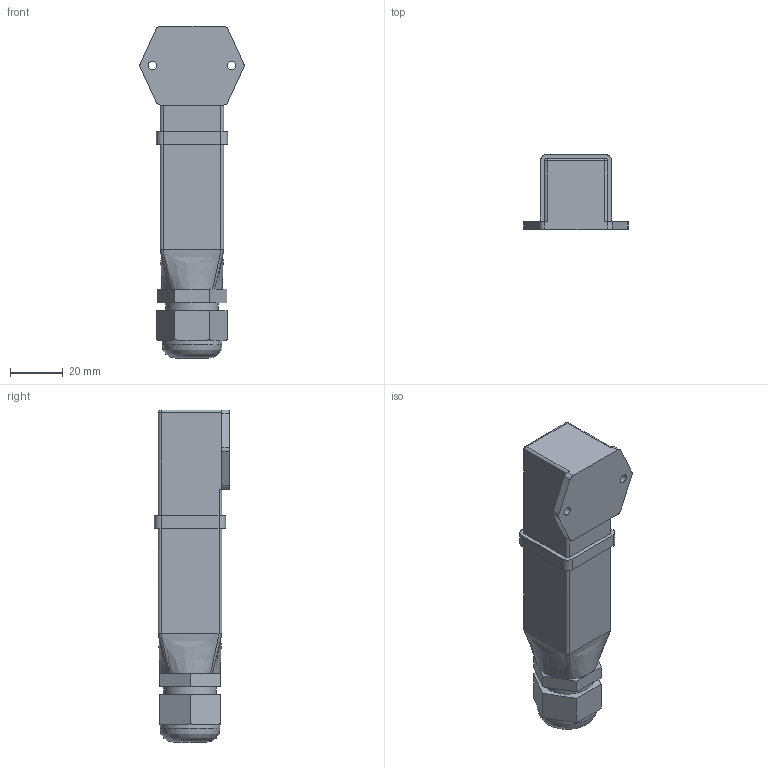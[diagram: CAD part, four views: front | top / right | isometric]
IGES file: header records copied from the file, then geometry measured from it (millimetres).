
Global section: file name: HQ 01.00; native system: Autodesk Inventor 2016; preprocessor: unknown; author: t1; organization: Проектная группа,11,0,15H201705; date: 20170516.122524; units: millimetre
Bounding box: 39.6 x 28.5 x 126 mm (x, y, z)
Volume: 69088.6 mm3; surface area: 14251.8 mm2
Topology: 1 solids, 1 shells, 83 faces, 210 edges, 134 vertices
Faces by surface type: bspline 83
